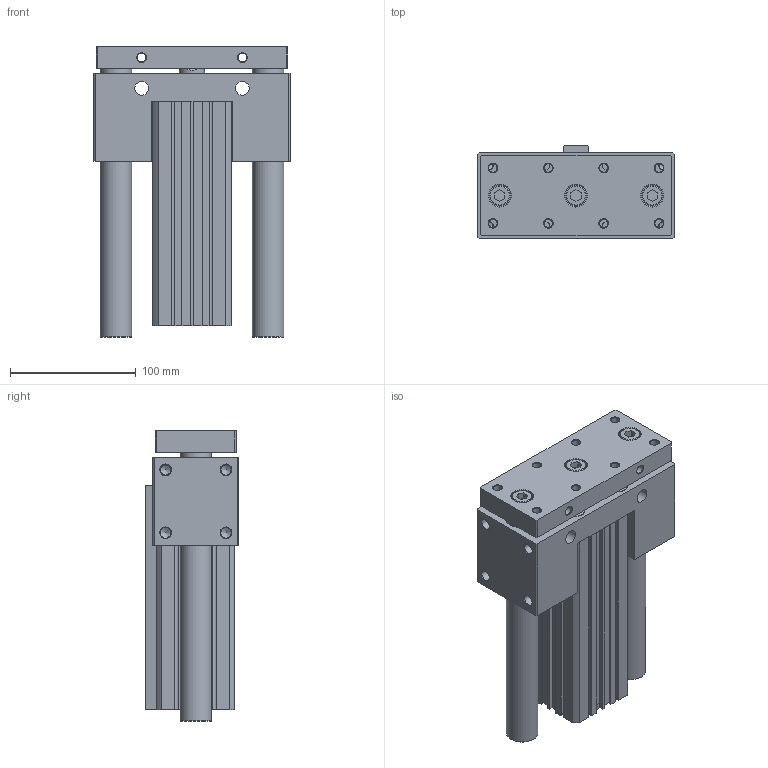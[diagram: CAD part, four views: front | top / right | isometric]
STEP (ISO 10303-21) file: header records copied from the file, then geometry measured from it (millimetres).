
FILE_DESCRIPTION((''),'2;1');
FILE_NAME('I:\3D電子目錄\氣缸\JCB\JCB\JCB50-S\JCB50x140-S.stp','2007-08-30T16:36:34',('Administrator'),(''),'Autodesk Inventor 11','Autodesk Inventor 11','');
FILE_SCHEMA(('AUTOMOTIVE_DESIGN { 1 0 10303 214 1 1 1 1 }'));
Length unit declared in the file: millimetre
Products named in the file (1): JCB50
Bounding box: 156 x 74 x 230.5 mm (x, y, z)
Volume: 1407769.3 mm3; surface area: 237074 mm2
Topology: 3 solids, 3 shells, 328 faces, 786 edges, 510 vertices
Faces by surface type: plane 190, cylinder 58, cone 45, bspline 31, torus 4
Full cylindrical faces by diameter (mm): 2.7 x2, 6.8 x4, 8.376 x4, 11 x8, 13 x4, 14 x4, 16 x3, 17.5 x3, 20 x1, 21 x1, 25 x2, 28 x2, 37 x1, 38 x1, 52 x4, 55 x2
Entity records: 9390 total; most frequent: CARTESIAN_POINT 2294, DIRECTION 1434, ORIENTED_EDGE 1264, EDGE_CURVE 632, EDGE_LOOP 536, AXIS2_PLACEMENT_3D 512, VERTEX_POINT 480, VECTOR 410
